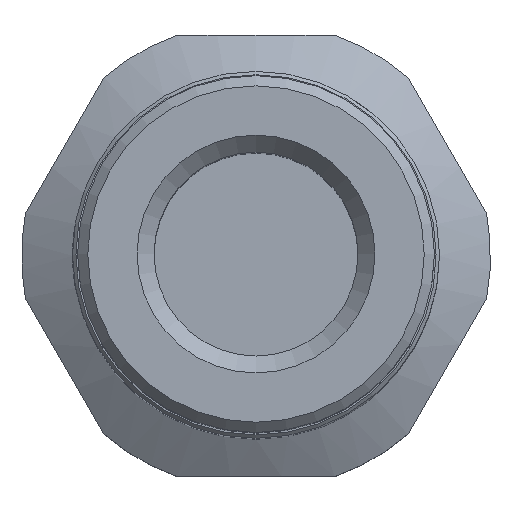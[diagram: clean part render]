
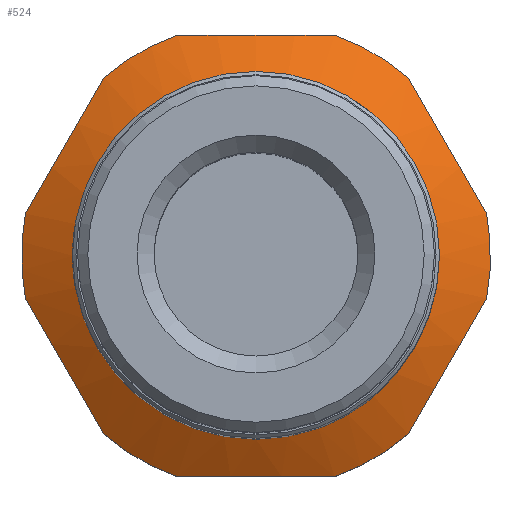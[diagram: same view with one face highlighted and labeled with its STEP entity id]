
A CAD part, top view. The second image highlights one B-rep face of the part: STEP entity #524.
In plain terms, the highlighted conical face has half-angle 60 degrees and reference radius 6.15 mm.
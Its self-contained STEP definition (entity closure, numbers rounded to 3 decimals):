
#42=(
BOUNDED_CURVE()
B_SPLINE_CURVE(2,(#836,#837,#838),.UNSPECIFIED.,.F.,.F.)
B_SPLINE_CURVE_WITH_KNOTS((3,3),(0.,0.465),.UNSPECIFIED.)
CURVE()
GEOMETRIC_REPRESENTATION_ITEM()
RATIONAL_B_SPLINE_CURVE((1.,1.062,1.))
REPRESENTATION_ITEM('')
);
#44=(
BOUNDED_CURVE()
B_SPLINE_CURVE(2,(#849,#850,#851),.UNSPECIFIED.,.F.,.F.)
B_SPLINE_CURVE_WITH_KNOTS((3,3),(0.,0.465),.UNSPECIFIED.)
CURVE()
GEOMETRIC_REPRESENTATION_ITEM()
RATIONAL_B_SPLINE_CURVE((1.,1.062,1.))
REPRESENTATION_ITEM('')
);
#46=(
BOUNDED_CURVE()
B_SPLINE_CURVE(2,(#862,#863,#864),.UNSPECIFIED.,.F.,.F.)
B_SPLINE_CURVE_WITH_KNOTS((3,3),(0.,0.465),.UNSPECIFIED.)
CURVE()
GEOMETRIC_REPRESENTATION_ITEM()
RATIONAL_B_SPLINE_CURVE((1.,1.062,1.))
REPRESENTATION_ITEM('')
);
#48=(
BOUNDED_CURVE()
B_SPLINE_CURVE(2,(#875,#876,#877),.UNSPECIFIED.,.F.,.F.)
B_SPLINE_CURVE_WITH_KNOTS((3,3),(0.,0.465),.UNSPECIFIED.)
CURVE()
GEOMETRIC_REPRESENTATION_ITEM()
RATIONAL_B_SPLINE_CURVE((1.,1.062,1.))
REPRESENTATION_ITEM('')
);
#49=(
BOUNDED_CURVE()
B_SPLINE_CURVE(2,(#882,#883,#884),.UNSPECIFIED.,.F.,.F.)
B_SPLINE_CURVE_WITH_KNOTS((3,3),(0.,0.465),.UNSPECIFIED.)
CURVE()
GEOMETRIC_REPRESENTATION_ITEM()
RATIONAL_B_SPLINE_CURVE((1.,1.062,1.))
REPRESENTATION_ITEM('')
);
#51=(
BOUNDED_CURVE()
B_SPLINE_CURVE(2,(#895,#896,#897),.UNSPECIFIED.,.F.,.F.)
B_SPLINE_CURVE_WITH_KNOTS((3,3),(0.,0.465),.UNSPECIFIED.)
CURVE()
GEOMETRIC_REPRESENTATION_ITEM()
RATIONAL_B_SPLINE_CURVE((1.,1.062,1.))
REPRESENTATION_ITEM('')
);
#75=CONICAL_SURFACE('',#595,6.15,60.);
#93=FACE_BOUND('',#187,.T.);
#134=FACE_OUTER_BOUND('',#186,.T.);
#186=EDGE_LOOP('',(#443,#444,#445,#446,#447,#448,#449,#450,#451,#452,#453,
#454));
#187=EDGE_LOOP('',(#455));
#226=CIRCLE('',#579,6.9);
#227=CIRCLE('',#581,6.9);
#229=CIRCLE('',#584,6.9);
#232=CIRCLE('',#588,6.9);
#233=CIRCLE('',#590,6.9);
#237=CIRCLE('',#596,6.9);
#238=CIRCLE('',#597,5.4);
#262=VERTEX_POINT('',#833);
#263=VERTEX_POINT('',#835);
#266=VERTEX_POINT('',#846);
#267=VERTEX_POINT('',#848);
#270=VERTEX_POINT('',#859);
#271=VERTEX_POINT('',#861);
#274=VERTEX_POINT('',#872);
#275=VERTEX_POINT('',#874);
#276=VERTEX_POINT('',#880);
#277=VERTEX_POINT('',#881);
#280=VERTEX_POINT('',#893);
#281=VERTEX_POINT('',#894);
#285=VERTEX_POINT('',#926);
#312=EDGE_CURVE('',#263,#262,#42,.T.);
#316=EDGE_CURVE('',#267,#266,#44,.T.);
#320=EDGE_CURVE('',#271,#270,#46,.T.);
#324=EDGE_CURVE('',#275,#274,#48,.T.);
#326=EDGE_CURVE('',#276,#277,#49,.T.);
#330=EDGE_CURVE('',#280,#281,#51,.T.);
#335=EDGE_CURVE('',#280,#277,#226,.T.);
#336=EDGE_CURVE('',#271,#281,#227,.T.);
#338=EDGE_CURVE('',#267,#274,#229,.T.);
#341=EDGE_CURVE('',#275,#270,#232,.T.);
#342=EDGE_CURVE('',#263,#266,#233,.T.);
#346=EDGE_CURVE('',#276,#262,#237,.T.);
#347=EDGE_CURVE('',#285,#285,#238,.T.);
#443=ORIENTED_EDGE('',*,*,#312,.T.);
#444=ORIENTED_EDGE('',*,*,#346,.F.);
#445=ORIENTED_EDGE('',*,*,#326,.T.);
#446=ORIENTED_EDGE('',*,*,#335,.F.);
#447=ORIENTED_EDGE('',*,*,#330,.T.);
#448=ORIENTED_EDGE('',*,*,#336,.F.);
#449=ORIENTED_EDGE('',*,*,#320,.T.);
#450=ORIENTED_EDGE('',*,*,#341,.F.);
#451=ORIENTED_EDGE('',*,*,#324,.T.);
#452=ORIENTED_EDGE('',*,*,#338,.F.);
#453=ORIENTED_EDGE('',*,*,#316,.T.);
#454=ORIENTED_EDGE('',*,*,#342,.F.);
#455=ORIENTED_EDGE('',*,*,#347,.T.);
#524=ADVANCED_FACE('',(#134,#93),#75,.T.);
#579=AXIS2_PLACEMENT_3D('',#907,#708,#709);
#581=AXIS2_PLACEMENT_3D('',#909,#712,#713);
#584=AXIS2_PLACEMENT_3D('',#912,#718,#719);
#588=AXIS2_PLACEMENT_3D('',#916,#726,#727);
#590=AXIS2_PLACEMENT_3D('',#918,#730,#731);
#595=AXIS2_PLACEMENT_3D('',#924,#740,#741);
#596=AXIS2_PLACEMENT_3D('',#925,#742,#743);
#597=AXIS2_PLACEMENT_3D('',#927,#744,#745);
#708=DIRECTION('center_axis',(0.,0.,-1.));
#709=DIRECTION('ref_axis',(1.,0.,0.));
#712=DIRECTION('center_axis',(0.,0.,-1.));
#713=DIRECTION('ref_axis',(1.,0.,0.));
#718=DIRECTION('center_axis',(0.,0.,-1.));
#719=DIRECTION('ref_axis',(1.,0.,0.));
#726=DIRECTION('center_axis',(0.,0.,-1.));
#727=DIRECTION('ref_axis',(1.,0.,0.));
#730=DIRECTION('center_axis',(0.,0.,-1.));
#731=DIRECTION('ref_axis',(1.,0.,0.));
#740=DIRECTION('center_axis',(0.,0.,-1.));
#741=DIRECTION('ref_axis',(0.,1.,0.));
#742=DIRECTION('center_axis',(0.,0.,-1.));
#743=DIRECTION('ref_axis',(1.,0.,0.));
#744=DIRECTION('center_axis',(0.,0.,-1.));
#745=DIRECTION('ref_axis',(1.,0.,0.));
#833=CARTESIAN_POINT('',(6.787,-1.245,-9.466));
#835=CARTESIAN_POINT('',(4.472,-5.255,-9.466));
#836=CARTESIAN_POINT('Ctrl Pts',(4.472,-5.255,-9.466));
#837=CARTESIAN_POINT('Ctrl Pts',(5.629,-3.25,-9.018));
#838=CARTESIAN_POINT('Ctrl Pts',(6.787,-1.245,-9.466));
#846=CARTESIAN_POINT('',(2.315,-6.5,-9.466));
#848=CARTESIAN_POINT('',(-2.315,-6.5,-9.466));
#849=CARTESIAN_POINT('Ctrl Pts',(-2.315,-6.5,-9.466));
#850=CARTESIAN_POINT('Ctrl Pts',(0.,-6.5,-9.018));
#851=CARTESIAN_POINT('Ctrl Pts',(2.315,-6.5,-9.466));
#859=CARTESIAN_POINT('',(-6.787,1.245,-9.466));
#861=CARTESIAN_POINT('',(-4.472,5.255,-9.466));
#862=CARTESIAN_POINT('Ctrl Pts',(-4.472,5.255,-9.466));
#863=CARTESIAN_POINT('Ctrl Pts',(-5.629,3.25,-9.018));
#864=CARTESIAN_POINT('Ctrl Pts',(-6.787,1.245,-9.466));
#872=CARTESIAN_POINT('',(-4.472,-5.255,-9.466));
#874=CARTESIAN_POINT('',(-6.787,-1.245,-9.466));
#875=CARTESIAN_POINT('Ctrl Pts',(-6.787,-1.245,-9.466));
#876=CARTESIAN_POINT('Ctrl Pts',(-5.629,-3.25,-9.018));
#877=CARTESIAN_POINT('Ctrl Pts',(-4.472,-5.255,-9.466));
#880=CARTESIAN_POINT('',(6.787,1.245,-9.466));
#881=CARTESIAN_POINT('',(4.472,5.255,-9.466));
#882=CARTESIAN_POINT('Ctrl Pts',(6.787,1.245,-9.466));
#883=CARTESIAN_POINT('Ctrl Pts',(5.629,3.25,-9.018));
#884=CARTESIAN_POINT('Ctrl Pts',(4.472,5.255,-9.466));
#893=CARTESIAN_POINT('',(2.315,6.5,-9.466));
#894=CARTESIAN_POINT('',(-2.315,6.5,-9.466));
#895=CARTESIAN_POINT('Ctrl Pts',(2.315,6.5,-9.466));
#896=CARTESIAN_POINT('Ctrl Pts',(0.,6.5,-9.018));
#897=CARTESIAN_POINT('Ctrl Pts',(-2.315,6.5,-9.466));
#907=CARTESIAN_POINT('Origin',(0.,0.,-9.466));
#909=CARTESIAN_POINT('Origin',(0.,0.,-9.466));
#912=CARTESIAN_POINT('Origin',(0.,0.,-9.466));
#916=CARTESIAN_POINT('Origin',(0.,0.,-9.466));
#918=CARTESIAN_POINT('Origin',(0.,0.,-9.466));
#924=CARTESIAN_POINT('Origin',(0.,0.,-9.033));
#925=CARTESIAN_POINT('Origin',(0.,0.,-9.466));
#926=CARTESIAN_POINT('',(0.,5.4,-8.6));
#927=CARTESIAN_POINT('Origin',(0.,0.,-8.6));
